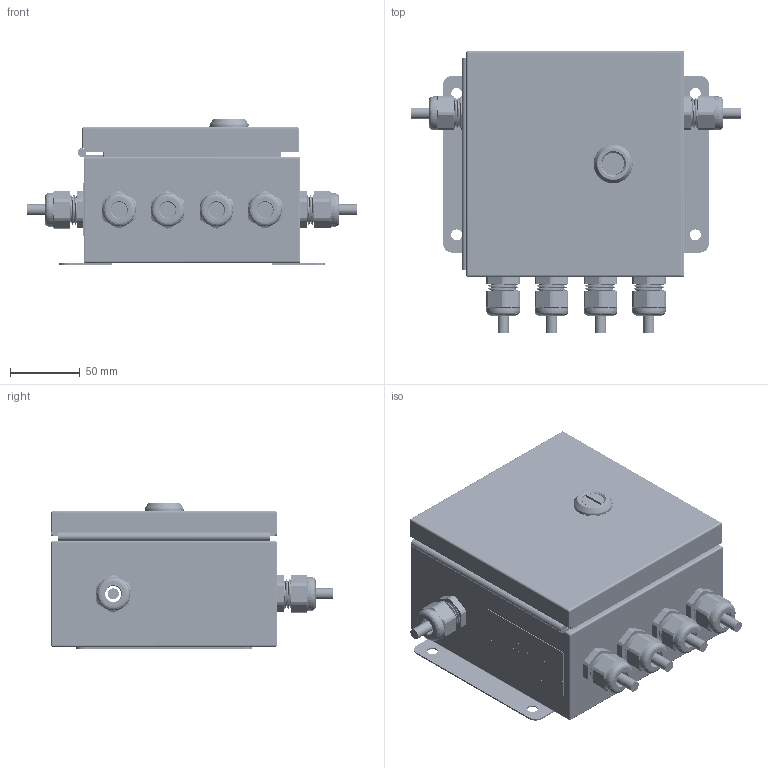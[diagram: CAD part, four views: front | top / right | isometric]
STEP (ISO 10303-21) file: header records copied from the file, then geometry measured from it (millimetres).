
FILE_DESCRIPTION (( 'STEP AP203' ), '1' );
FILE_NAME ('HI6020IT-SS2-6.STEP', '2023-09-28T20:53:52', ( '' ), ( '' ), 'SwSTEP 2.0', 'SolidWorks 2020', '' );
FILE_SCHEMA (( 'CONFIG_CONTROL_DESIGN' ));
Length unit declared in the file: inch
Products named in the file (35): 6007-0097-0; Southco-E5-6-0024-UU1_E5_Plastic_Driver(Slotted)_clf_STD-QTL-SLOTTED-INSERT_1; 0508-0929-06-0_Default_DOOR CLOSED; BRKY-00409_BRKT-00409_1; flush stud_pmi_97H7202-26188_1; hex nut_ai_97H1112-27ZA3_1; hardy-flange_MFW-HOL-00409_1; 2814-0095-0; 2817-0182_90400A219; Southco-E5-6-0024-UU1_E5_Phillips_Slot_Hex_Screw_clf_STD-QTL-SCREW_1; 97H9231-27ZA3_12C6_1; 0508-0929-XX-006_ENCLOSURE DOOR GASKET; 0508-0929-XX-002_ENCLOSURE DOOR; HI6020IT-SS2-6; 0534-0573-01-0; 1658A6_Piano Hinge with Holes_KEEP-B_1; 1658A6_Piano Hinge with Holes_KEEP-A_1; HI6020XX-SSY Model-Serial Label; 0530-0851-01-0; 4617-0010-0; Southco-E5-6-0024-UU1_O-Ring_clf_97H9930-13VIT_1; 2140-0137-09-0; blind standoff_pmi_97H5125-26300_1; Southco-E5-6-0024-UU1_E5_Sealing_Washer(Compressed)_clf_1; 0535-0573-XX-0; 2140-0136-07-0; Southco-E5-6-0024-UU1_E5_Plastic_Housing_clf_STD-QTL-HOUSING_1; 0530-0710-01-0; 2140-0137-07-0; 0508-0929-06-0_ENCLOSURE CASE; machine screw nut hex_ai_97H1401-26188_1; flush stud_pmi_97H7301-26188_1; 0529-0024-01-0; QTL-HOUSING-ASSY_97H9230-26300_1; Southco-E5-6-0024-UU1_Nut_clf_STD-QTL-NUT_1
Assembly tree (70 placements, depth 4):
  HI6020IT-SS2-6
    0535-0573-XX-0
      0534-0573-01-0
      4617-0010-0  x4
      2140-0136-07-0  x4
      2140-0137-07-0  x4
      2140-0137-09-0  x2
    2817-0182_90400A219  x4
    HI6020XX-SSY Model-Serial Label
    0530-0710-01-0
    6007-0097-0  x6
    2814-0095-0  x6
    0529-0024-01-0  x6
    0508-0929-06-0_Default_DOOR CLOSED
      0508-0929-06-0_ENCLOSURE CASE
      flush stud_pmi_97H7202-26188_1  x2
      flush stud_pmi_97H7301-26188_1  x2
      hardy-flange_MFW-HOL-00409_1  x2
      BRKY-00409_BRKT-00409_1
      blind standoff_pmi_97H5125-26300_1  x4
      machine screw nut hex_ai_97H1401-26188_1  x2
      hex nut_ai_97H1112-27ZA3_1  x2
      1658A6_Piano Hinge with Holes_KEEP-A_1
      1658A6_Piano Hinge with Holes_KEEP-B_1
      0508-0929-XX-002_ENCLOSURE DOOR
      97H9231-27ZA3_12C6_1
      QTL-HOUSING-ASSY_97H9230-26300_1
        Southco-E5-6-0024-UU1_E5_Plastic_Driver(Slotted)_clf_STD-QTL-SLOTTED-INSERT_1
        Southco-E5-6-0024-UU1_E5_Sealing_Washer(Compressed)_clf_1
        Southco-E5-6-0024-UU1_Nut_clf_STD-QTL-NUT_1
        Southco-E5-6-0024-UU1_E5_Plastic_Housing_clf_STD-QTL-HOUSING_1
        Southco-E5-6-0024-UU1_E5_Phillips_Slot_Hex_Screw_clf_STD-QTL-SCREW_1
        Southco-E5-6-0024-UU1_O-Ring_clf_97H9930-13VIT_1
      0508-0929-XX-006_ENCLOSURE DOOR GASKET
    0530-0851-01-0
Bounding box: 236.85 x 203.09 x 104.41 mm (x, y, z)
Volume: 364227.8 mm3; surface area: 476348.1 mm2
Topology: 700 solids, 704 shells, 18160 faces, 47046 edges, 30832 vertices
Faces by surface type: plane 10267, bspline 4394, cylinder 2808, cone 495, torus 124, sphere 72
Entity records: 516744 total; most frequent: CARTESIAN_POINT 226596, ORIENTED_EDGE 66526, DIRECTION 43781, EDGE_CURVE 33263, VERTEX_POINT 21952, VECTOR 21463, LINE 21463, EDGE_LOOP 13655
